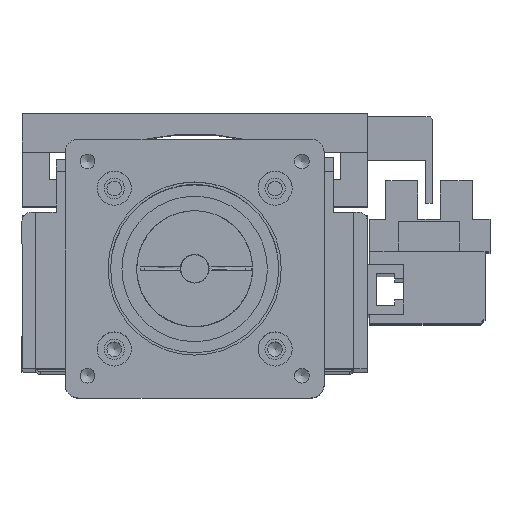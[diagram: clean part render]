
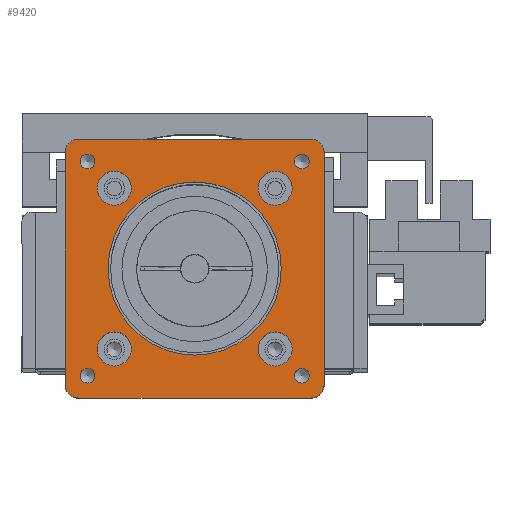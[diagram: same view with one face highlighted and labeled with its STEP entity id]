
A CAD part, top view. The second image highlights one B-rep face of the part: STEP entity #9420.
In plain terms, the highlighted planar face has unit normal (0, 0, 1).
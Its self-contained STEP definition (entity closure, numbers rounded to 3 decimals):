
#9060=CARTESIAN_POINT('',(53.691,4.93,0.0));
#9061=VERTEX_POINT('',#9060);
#9062=CARTESIAN_POINT('',(52.07,4.93,0.0));
#9063=DIRECTION('',(0.0,0.0,-1.0));
#9064=DIRECTION('',(1.0,0.0,0.0));
#9065=AXIS2_PLACEMENT_3D('',#9062,#9063,#9064);
#9066=CIRCLE('',#9065,1.621);
#9067=EDGE_CURVE('',#9061,#9061,#9066,.T.);
#9097=CARTESIAN_POINT('',(6.551,52.07,0.0));
#9098=VERTEX_POINT('',#9097);
#9099=CARTESIAN_POINT('',(4.93,52.07,0.0));
#9100=DIRECTION('',(0.0,0.0,-1.0));
#9101=DIRECTION('',(1.0,0.0,0.0));
#9102=AXIS2_PLACEMENT_3D('',#9099,#9100,#9101);
#9103=CIRCLE('',#9102,1.621);
#9104=EDGE_CURVE('',#9098,#9098,#9103,.T.);
#9134=CARTESIAN_POINT('',(53.691,52.07,0.0));
#9135=VERTEX_POINT('',#9134);
#9136=CARTESIAN_POINT('',(52.07,52.07,0.0));
#9137=DIRECTION('',(0.0,0.0,-1.0));
#9138=DIRECTION('',(1.0,0.0,0.0));
#9139=AXIS2_PLACEMENT_3D('',#9136,#9137,#9138);
#9140=CIRCLE('',#9139,1.621);
#9141=EDGE_CURVE('',#9135,#9135,#9140,.T.);
#9171=CARTESIAN_POINT('',(6.551,4.93,0.0));
#9172=VERTEX_POINT('',#9171);
#9173=CARTESIAN_POINT('',(4.93,4.93,0.0));
#9174=DIRECTION('',(0.0,0.0,-1.0));
#9175=DIRECTION('',(1.0,0.0,0.0));
#9176=AXIS2_PLACEMENT_3D('',#9173,#9174,#9175);
#9177=CIRCLE('',#9176,1.621);
#9178=EDGE_CURVE('',#9172,#9172,#9177,.T.);
#9202=CARTESIAN_POINT('',(0.0,54.0,0.0));
#9203=VERTEX_POINT('',#9202);
#9210=CARTESIAN_POINT('',(3.,57.0,0.0));
#9211=VERTEX_POINT('',#9210);
#9212=CARTESIAN_POINT('',(3.,54.0,0.0));
#9213=DIRECTION('',(0.0,0.0,-1.));
#9214=DIRECTION('',(-0.707,0.707,0.0));
#9215=AXIS2_PLACEMENT_3D('',#9212,#9213,#9214);
#9216=CIRCLE('',#9215,3.);
#9217=EDGE_CURVE('',#9203,#9211,#9216,.T.);
#9234=CARTESIAN_POINT('',(54.,57.,0.0));
#9235=VERTEX_POINT('',#9234);
#9236=CARTESIAN_POINT('',(54.,57.,0.0));
#9237=DIRECTION('',(-1.0,0.0,0.0));
#9238=VECTOR('',#9237,51.);
#9239=LINE('',#9236,#9238);
#9240=EDGE_CURVE('',#9235,#9211,#9239,.T.);
#9295=CARTESIAN_POINT('',(28.5,28.5,0.0));
#9296=DIRECTION('',(0.0,0.0,1.0));
#9297=DIRECTION('',(1.0,0.0,0.0));
#9298=AXIS2_PLACEMENT_3D('',#9295,#9296,#9297);
#9299=PLANE('',#9298);
#9300=ORIENTED_EDGE('',*,*,#9217,.F.);
#9301=CARTESIAN_POINT('',(0.0,3.,0.0));
#9302=VERTEX_POINT('',#9301);
#9303=CARTESIAN_POINT('',(0.0,54.0,0.0));
#9304=DIRECTION('',(0.0,-1.0,0.0));
#9305=VECTOR('',#9304,51.0);
#9306=LINE('',#9303,#9305);
#9307=EDGE_CURVE('',#9203,#9302,#9306,.T.);
#9308=ORIENTED_EDGE('',*,*,#9307,.T.);
#9309=CARTESIAN_POINT('',(3.,0.0,0.0));
#9310=VERTEX_POINT('',#9309);
#9311=CARTESIAN_POINT('',(3.,3.,0.0));
#9312=DIRECTION('',(0.0,0.0,-1.));
#9313=DIRECTION('',(-0.707,-0.707,0.0));
#9314=AXIS2_PLACEMENT_3D('',#9311,#9312,#9313);
#9315=CIRCLE('',#9314,3.);
#9316=EDGE_CURVE('',#9310,#9302,#9315,.T.);
#9317=ORIENTED_EDGE('',*,*,#9316,.F.);
#9318=CARTESIAN_POINT('',(54.0,0.0,0.0));
#9319=VERTEX_POINT('',#9318);
#9320=CARTESIAN_POINT('',(3.,0.0,0.0));
#9321=DIRECTION('',(1.0,0.0,0.0));
#9322=VECTOR('',#9321,51.0);
#9323=LINE('',#9320,#9322);
#9324=EDGE_CURVE('',#9310,#9319,#9323,.T.);
#9325=ORIENTED_EDGE('',*,*,#9324,.T.);
#9326=CARTESIAN_POINT('',(57.0,3.,0.0));
#9327=VERTEX_POINT('',#9326);
#9328=CARTESIAN_POINT('',(54.0,3.,0.0));
#9329=DIRECTION('',(0.0,0.0,-1.));
#9330=DIRECTION('',(0.707,-0.707,0.0));
#9331=AXIS2_PLACEMENT_3D('',#9328,#9329,#9330);
#9332=CIRCLE('',#9331,3.);
#9333=EDGE_CURVE('',#9327,#9319,#9332,.T.);
#9334=ORIENTED_EDGE('',*,*,#9333,.F.);
#9335=CARTESIAN_POINT('',(57.,54.,0.0));
#9336=VERTEX_POINT('',#9335);
#9337=CARTESIAN_POINT('',(57.0,3.,0.0));
#9338=DIRECTION('',(0.0,1.0,0.0));
#9339=VECTOR('',#9338,51.);
#9340=LINE('',#9337,#9339);
#9341=EDGE_CURVE('',#9327,#9336,#9340,.T.);
#9342=ORIENTED_EDGE('',*,*,#9341,.T.);
#9343=CARTESIAN_POINT('',(54.,54.,0.0));
#9344=DIRECTION('',(0.0,0.0,-1.));
#9345=DIRECTION('',(0.707,0.707,0.0));
#9346=AXIS2_PLACEMENT_3D('',#9343,#9344,#9345);
#9347=CIRCLE('',#9346,3.);
#9348=EDGE_CURVE('',#9235,#9336,#9347,.T.);
#9349=ORIENTED_EDGE('',*,*,#9348,.F.);
#9350=ORIENTED_EDGE('',*,*,#9240,.T.);
#9351=EDGE_LOOP('',(#9300,#9308,#9317,#9325,#9334,#9342,#9349,#9350));
#9352=FACE_OUTER_BOUND('',#9351,.T.);
#9353=ORIENTED_EDGE('',*,*,#9067,.T.);
#9354=EDGE_LOOP('',(#9353));
#9355=FACE_BOUND('',#9354,.T.);
#9356=ORIENTED_EDGE('',*,*,#9104,.T.);
#9357=EDGE_LOOP('',(#9356));
#9358=FACE_BOUND('',#9357,.T.);
#9359=ORIENTED_EDGE('',*,*,#9141,.T.);
#9360=EDGE_LOOP('',(#9359));
#9361=FACE_BOUND('',#9360,.T.);
#9362=ORIENTED_EDGE('',*,*,#9178,.T.);
#9363=EDGE_LOOP('',(#9362));
#9364=FACE_BOUND('',#9363,.T.);
#9365=CARTESIAN_POINT('',(49.95,10.8,0.0));
#9366=VERTEX_POINT('',#9365);
#9367=CARTESIAN_POINT('',(46.2,10.8,0.0));
#9368=DIRECTION('',(0.0,0.0,-1.0));
#9369=DIRECTION('',(1.0,0.0,0.0));
#9370=AXIS2_PLACEMENT_3D('',#9367,#9368,#9369);
#9371=CIRCLE('',#9370,3.75);
#9372=EDGE_CURVE('',#9366,#9366,#9371,.T.);
#9373=ORIENTED_EDGE('',*,*,#9372,.T.);
#9374=EDGE_LOOP('',(#9373));
#9375=FACE_BOUND('',#9374,.T.);
#9376=CARTESIAN_POINT('',(14.55,46.2,0.0));
#9377=VERTEX_POINT('',#9376);
#9378=CARTESIAN_POINT('',(10.8,46.2,0.0));
#9379=DIRECTION('',(0.0,0.0,-1.0));
#9380=DIRECTION('',(1.0,0.0,0.0));
#9381=AXIS2_PLACEMENT_3D('',#9378,#9379,#9380);
#9382=CIRCLE('',#9381,3.75);
#9383=EDGE_CURVE('',#9377,#9377,#9382,.T.);
#9384=ORIENTED_EDGE('',*,*,#9383,.T.);
#9385=EDGE_LOOP('',(#9384));
#9386=FACE_BOUND('',#9385,.T.);
#9387=CARTESIAN_POINT('',(14.55,10.8,0.0));
#9388=VERTEX_POINT('',#9387);
#9389=CARTESIAN_POINT('',(10.8,10.8,0.0));
#9390=DIRECTION('',(0.0,0.0,-1.0));
#9391=DIRECTION('',(1.0,0.0,0.0));
#9392=AXIS2_PLACEMENT_3D('',#9389,#9390,#9391);
#9393=CIRCLE('',#9392,3.75);
#9394=EDGE_CURVE('',#9388,#9388,#9393,.T.);
#9395=ORIENTED_EDGE('',*,*,#9394,.T.);
#9396=EDGE_LOOP('',(#9395));
#9397=FACE_BOUND('',#9396,.T.);
#9398=CARTESIAN_POINT('',(49.95,46.2,0.0));
#9399=VERTEX_POINT('',#9398);
#9400=CARTESIAN_POINT('',(46.2,46.2,0.0));
#9401=DIRECTION('',(0.0,0.0,-1.0));
#9402=DIRECTION('',(1.0,0.0,0.0));
#9403=AXIS2_PLACEMENT_3D('',#9400,#9401,#9402);
#9404=CIRCLE('',#9403,3.75);
#9405=EDGE_CURVE('',#9399,#9399,#9404,.T.);
#9406=ORIENTED_EDGE('',*,*,#9405,.T.);
#9407=EDGE_LOOP('',(#9406));
#9408=FACE_BOUND('',#9407,.T.);
#9409=CARTESIAN_POINT('',(47.55,28.5,0.0));
#9410=VERTEX_POINT('',#9409);
#9411=CARTESIAN_POINT('',(28.5,28.5,0.0));
#9412=DIRECTION('',(0.0,0.0,-1.0));
#9413=DIRECTION('',(-1.0,0.0,0.0));
#9414=AXIS2_PLACEMENT_3D('',#9411,#9412,#9413);
#9415=CIRCLE('',#9414,19.05);
#9416=EDGE_CURVE('',#9410,#9410,#9415,.T.);
#9417=ORIENTED_EDGE('',*,*,#9416,.T.);
#9418=EDGE_LOOP('',(#9417));
#9419=FACE_BOUND('',#9418,.T.);
#9420=ADVANCED_FACE('',(#9352,#9355,#9358,#9361,#9364,#9375,#9386,#9397,#9408,#9419),#9299,.T.);
